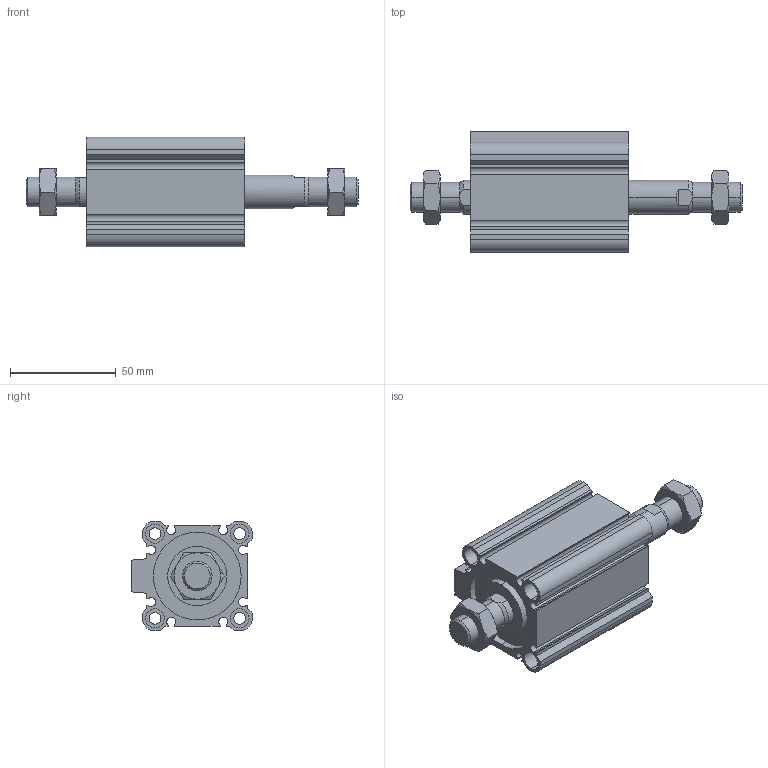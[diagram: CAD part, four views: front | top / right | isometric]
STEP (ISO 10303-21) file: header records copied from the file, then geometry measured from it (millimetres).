
FILE_DESCRIPTION (( 'STEP AP203' ), '1' );
FILE_NAME ('CCMB40-25M-P.STEP', '2020-08-10T11:38:56', ( '' ), ( '' ), 'SwSTEP 2.0', 'SolidWorks 2019', '' );
FILE_SCHEMA (( 'CONFIG_CONTROL_DESIGN' ));
Length unit declared in the file: millimetre
Products named in the file (1): CCMB40-25M-P
Bounding box: 157 x 57 x 52 mm (x, y, z)
Volume: 155787.2 mm3; surface area: 58177 mm2
Topology: 4 solids, 4 shells, 216 faces, 522 edges, 332 vertices
Faces by surface type: plane 94, cylinder 78, cone 44
Entity records: 7009 total; most frequent: CARTESIAN_POINT 1819, DIRECTION 1088, ORIENTED_EDGE 1044, EDGE_CURVE 522, AXIS2_PLACEMENT_3D 413, VERTEX_POINT 332, VECTOR 262, LINE 262
